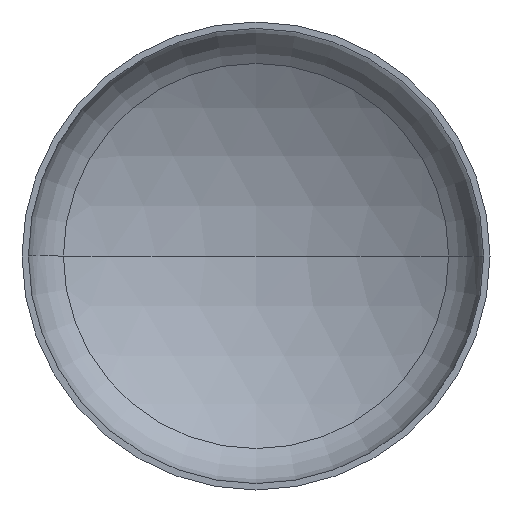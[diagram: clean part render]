
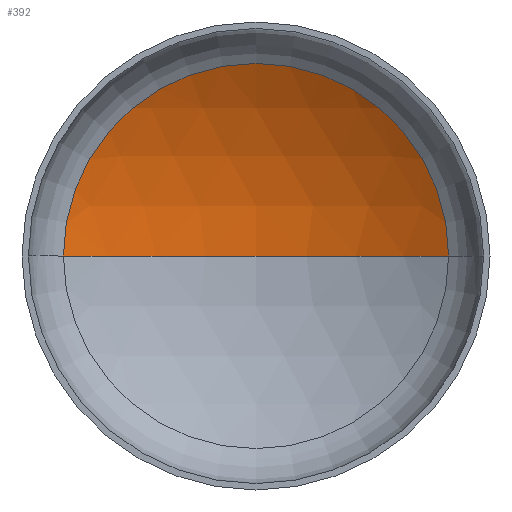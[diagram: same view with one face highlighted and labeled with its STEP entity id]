
A CAD part, front view. The second image highlights one B-rep face of the part: STEP entity #392.
In plain terms, the highlighted spherical face has radius 3040 mm.
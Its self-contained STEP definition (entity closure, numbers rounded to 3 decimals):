
#9 = CARTESIAN_POINT ( 'NONE',  ( 0., 621.646, 0. ) ) ;
#16 = AXIS2_PLACEMENT_3D ( 'NONE', #394, #170, #80 ) ;
#21 = EDGE_LOOP ( 'NONE', ( #383, #58, #187 ) ) ;
#32 = AXIS2_PLACEMENT_3D ( 'NONE', #212, #242, #134 ) ;
#40 = AXIS2_PLACEMENT_3D ( 'NONE', #9, #370, #232 ) ;
#41 = AXIS2_PLACEMENT_3D ( 'NONE', #216, #217, #254 ) ;
#58 = ORIENTED_EDGE ( 'NONE', *, *, #156, .T. ) ;
#80 = DIRECTION ( 'NONE',  ( 1., 0., 0. ) ) ;
#100 = CIRCLE ( 'NONE', #16, 3040. ) ;
#102 = VERTEX_POINT ( 'NONE', #361 ) ;
#119 = VERTEX_POINT ( 'NONE', #290 ) ;
#128 = EDGE_CURVE ( 'NONE', #146, #102, #152, .T. ) ;
#134 = DIRECTION ( 'NONE',  ( -1., 0., 0. ) ) ;
#146 = VERTEX_POINT ( 'NONE', #407 ) ;
#152 = CIRCLE ( 'NONE', #40, 1563.959 ) ;
#156 = EDGE_CURVE ( 'NONE', #119, #146, #410, .T. ) ;
#170 = DIRECTION ( 'NONE',  ( 0., 0., 1. ) ) ;
#187 = ORIENTED_EDGE ( 'NONE', *, *, #128, .T. ) ;
#212 = CARTESIAN_POINT ( 'NONE',  ( 0., -1985.197, 0. ) ) ;
#216 = CARTESIAN_POINT ( 'NONE',  ( 0., -1985.197, 0. ) ) ;
#217 = DIRECTION ( 'NONE',  ( 0., 0., -1. ) ) ;
#232 = DIRECTION ( 'NONE',  ( 1., 0., 0. ) ) ;
#242 = DIRECTION ( 'NONE',  ( 0., 0., -1. ) ) ;
#254 = DIRECTION ( 'NONE',  ( -1., 0., 0. ) ) ;
#290 = CARTESIAN_POINT ( 'NONE',  ( 0., 1054.803, 0. ) ) ;
#309 = SPHERICAL_SURFACE ( 'NONE', #32, 3040. ) ;
#315 = FACE_OUTER_BOUND ( 'NONE', #21, .T. ) ;
#361 = CARTESIAN_POINT ( 'NONE',  ( -1563.959, 621.646, 0. ) ) ;
#362 = EDGE_CURVE ( 'NONE', #119, #102, #100, .T. ) ;
#370 = DIRECTION ( 'NONE',  ( 0., -1., 0. ) ) ;
#383 = ORIENTED_EDGE ( 'NONE', *, *, #362, .F. ) ;
#392 = ADVANCED_FACE ( 'NONE', ( #315 ), #309, .F. ) ;
#394 = CARTESIAN_POINT ( 'NONE',  ( 0., -1985.197, 0. ) ) ;
#407 = CARTESIAN_POINT ( 'NONE',  ( 1563.959, 621.646, 0. ) ) ;
#410 = CIRCLE ( 'NONE', #41, 3040. ) ;
